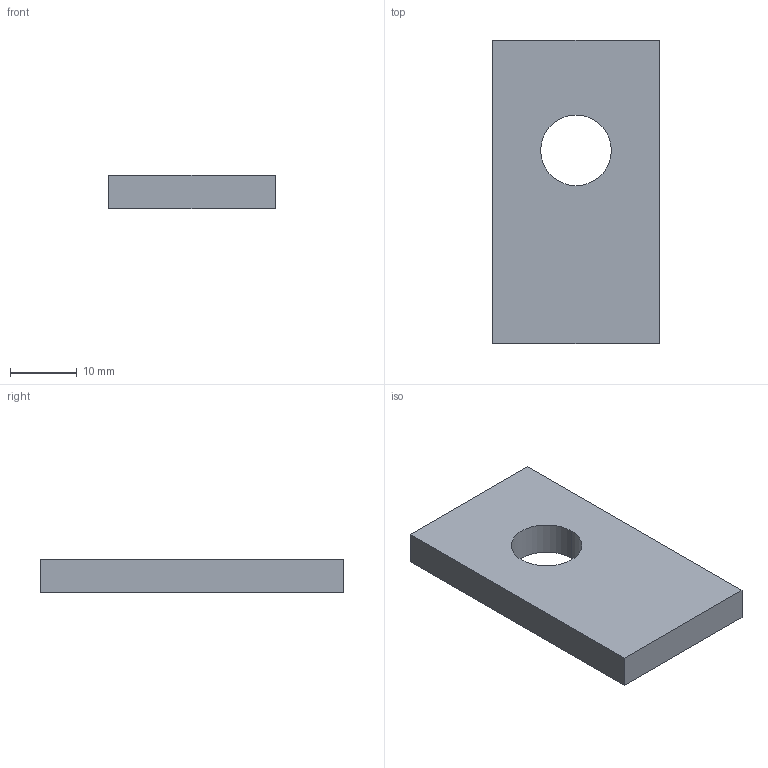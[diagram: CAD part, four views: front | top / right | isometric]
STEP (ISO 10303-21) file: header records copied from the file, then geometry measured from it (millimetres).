
FILE_DESCRIPTION((''),'2;1');
FILE_NAME('04470219-3D_ASM','2026-03-24T14:51:27',('SESA530330'),('Schneider-Electric'),'CREO PARAMETRIC BY PTC INC, 2025093','CREO PARAMETRIC BY PTC INC, 2025093','');
FILE_SCHEMA(('AP242_MANAGED_MODEL_BASED_3D_ENGINEERING_MIM_LF { 1 0 10303 442 1 1 4 }'));
Length unit declared in the file: millimetre
Products named in the file (2): 447021900; 04470219-3D_ASM
Assembly tree (1 placements, depth 2):
  04470219-3D_ASM
    447021900
Bounding box: 25 x 45.5 x 5 mm (x, y, z)
Volume: 5246.3 mm3; surface area: 2970 mm2
Topology: 1 solids, 1 shells, 8 faces, 18 edges, 12 vertices
Faces by surface type: plane 6, cylinder 2
Entity records: 534 total; most frequent: COLOUR_RGB 147, CARTESIAN_POINT 45, DIRECTION 44, ORIENTED_EDGE 36, PRESENTATION_STYLE_ASSIGNMENT 19, STYLED_ITEM 19, CURVE_STYLE 18, EDGE_CURVE 18
